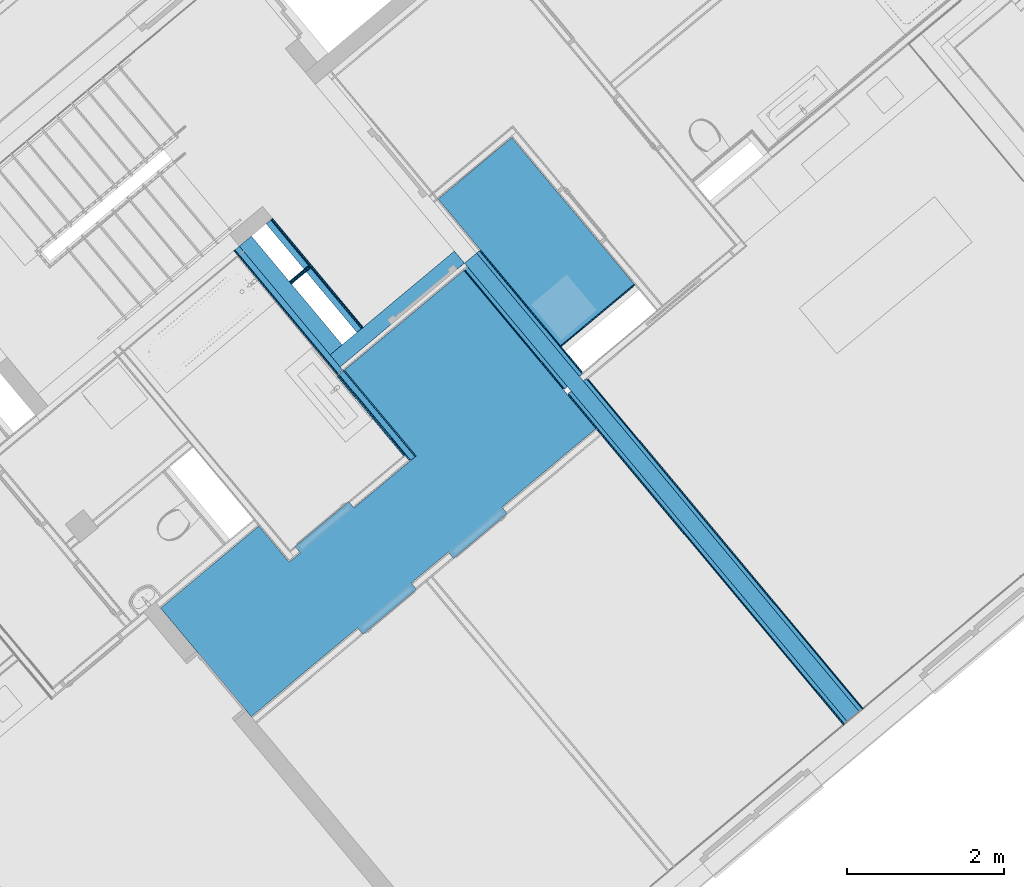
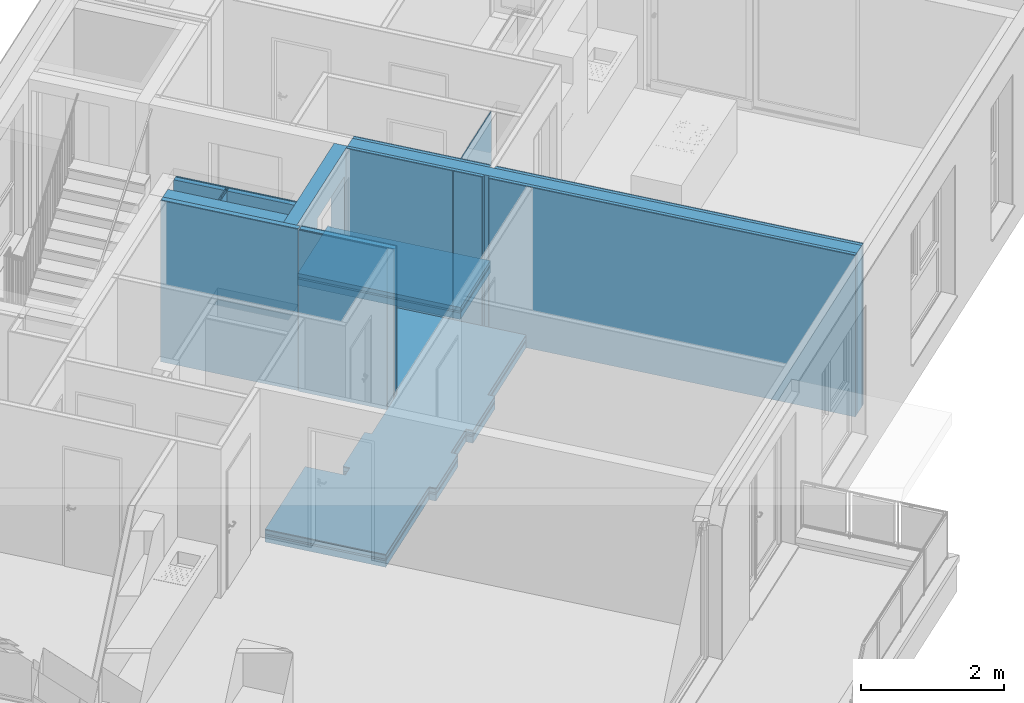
# One storey, part 26 of 50: 28 building element parts, 1 opening, 9 elements without a shape of their own.
"""IFC4 building model written with IfcOpenShell, lengths in metres."""

import ifcopenshell
import ifcopenshell.guid

model = None  # the IFC model being written
_history = None  # IfcOwnerHistory: only IFC2X3 demands one
_inside = {}  # id of a spatial element -> (the spatial element, [elements in it])
_under = {}  # id of a project, library or spatial element -> (it, [spatial elements below it])
_declared = {}  # id of a project -> (the project, [libraries it declares])
_typed = {}  # id of a type object -> (the type object, [elements of that type])
_made_of = {}  # id of a material, layer set ... -> (it, [elements and type objects made of it])


def new_model(schema):
    """Start an empty IFC model of exactly this schema.

    Asked for "IFC4X3", IfcOpenShell would pick the latest addendum, in which some entities
    have other attributes; the version numbers below select the first issue.
    IFC2X3 requires an IfcOwnerHistory on every rooted entity: one is made here for all.
    """
    global model, _history
    if schema == "IFC4X3":
        model = ifcopenshell.file(schema_version=(4, 3, 0, 0))
    else:
        model = ifcopenshell.file(schema=schema)
    _inside.clear()
    _under.clear()
    _declared.clear()
    _typed.clear()
    _made_of.clear()
    _history = None
    if model.schema == "IFC2X3":
        org = make("IfcOrganization", Name="unknown")
        user = make(
            "IfcPersonAndOrganization",
            ThePerson=make("IfcPerson", FamilyName="unknown"),
            TheOrganization=org,
        )
        app = make(
            "IfcApplication",
            ApplicationDeveloper=org,
            Version="unknown",
            ApplicationFullName="unknown",
            ApplicationIdentifier="unknown",
        )
        _history = make(
            "IfcOwnerHistory",
            OwningUser=user,
            OwningApplication=app,
            ChangeAction="ADDED",
            CreationDate=0,
        )
    return model


def make(cls, **values):
    """One entity of the class cls with the attributes given. An attribute that is None is left unset."""
    return model.create_entity(
        cls, **{name: value for name, value in values.items() if value is not None}
    )


def entity(cls, *values):
    """Any entity or typed value of the class cls, its attributes in the order of the schema. None: left unset."""
    e = model.create_entity(cls)
    for i, value in enumerate(values):
        if value is not None:
            e[i] = value
    return e


def rooted(cls, **values):
    """An entity with a GlobalId (a new one), such as an element, a storey or a relation."""
    return make(cls, GlobalId=ifcopenshell.guid.new(), OwnerHistory=_history, **values)


def si_unit(unit_type, name, prefix=None):
    """IfcSIUnit, for example si_unit("LENGTHUNIT", "METRE", prefix="MILLI")."""
    return make("IfcSIUnit", UnitType=unit_type, Prefix=prefix, Name=name)


def converted_unit(unit_type, name, factor, base, dimensions=None, offset=None):
    """IfcConversionBasedUnit, such as the inch: factor (a typed value) times the base unit."""
    return make(
        "IfcConversionBasedUnit"
        if offset is None
        else "IfcConversionBasedUnitWithOffset",
        ConversionOffset=offset,
        Dimensions=None
        if dimensions is None
        else entity("IfcDimensionalExponents", *dimensions),
        UnitType=unit_type,
        Name=name,
        ConversionFactor=make(
            "IfcMeasureWithUnit", ValueComponent=factor, UnitComponent=base
        ),
    )


def derived_unit(unit_type, elements):
    """IfcDerivedUnit: a product of units, each with its exponent."""
    return make(
        "IfcDerivedUnit",
        Elements=[
            make("IfcDerivedUnitElement", Unit=unit, Exponent=power)
            for unit, power in elements
        ],
        UnitType=unit_type,
    )


def assignment(units):
    """IfcUnitAssignment: the units of a project."""
    return None if units is None else make("IfcUnitAssignment", Units=units)


def point(xyz):
    """IfcCartesianPoint."""
    return None if xyz is None else make("IfcCartesianPoint", Coordinates=xyz)


def direction(xyz):
    """IfcDirection."""
    return None if xyz is None else make("IfcDirection", DirectionRatios=xyz)


def frame(location, z_axis=None, x_axis=None):
    """IfcAxis2Placement3D, a coordinate frame: its origin and axes. An axis left out is left unset."""
    return make(
        "IfcAxis2Placement3D",
        Location=point(location),
        Axis=direction(z_axis),
        RefDirection=direction(x_axis),
    )


def origin_with_axes():
    """The frame at (0, 0, 0) with the z axis (0, 0, 1) and the x axis (1, 0, 0) written out."""
    return frame((0.0, 0.0, 0.0), z_axis=(0.0, 0.0, 1.0), x_axis=(1.0, 0.0, 0.0))


def place(relative_to, where):
    """IfcLocalPlacement: puts the frame where relative to a parent placement (None: the world)."""
    return make(
        "IfcLocalPlacement", PlacementRelTo=relative_to, RelativePlacement=where
    )


def context(
    kind, dimensions, precision=None, world=None, true_north=None, identifier=None
):
    """IfcGeometricRepresentationContext, for example the 3D "Model" context."""
    return make(
        "IfcGeometricRepresentationContext",
        ContextIdentifier=identifier,
        ContextType=kind,
        CoordinateSpaceDimension=dimensions,
        Precision=precision,
        WorldCoordinateSystem=world,
        TrueNorth=true_north,
    )


def subcontext(parent, identifier, kind, view, scale=None):
    """IfcGeometricRepresentationSubContext, for example "Body" below "Model"."""
    return make(
        "IfcGeometricRepresentationSubContext",
        ContextIdentifier=identifier,
        ContextType=kind,
        ParentContext=parent,
        TargetScale=scale,
        TargetView=view,
    )


def project(units=None, contexts=None):
    """IfcProject with its units and contexts."""
    return rooted(
        "IfcProject",
        Name="project",
        RepresentationContexts=contexts,
        UnitsInContext=assignment(units),
    )


def spatial(cls, under=None, at=None, **own):
    """A site, building, storey or space (cls), placed at a placement, below another one or the project."""
    s = rooted(cls, ObjectPlacement=at, **own)
    if under is not None:
        _under.setdefault(under.id(), (under, []))[1].append(s)
    return s


def point_list(points):
    """IfcCartesianPointList2D or 3D."""
    cls = (
        "IfcCartesianPointList2D" if len(points[0]) == 2 else "IfcCartesianPointList3D"
    )
    return make(cls, CoordList=points)


def polygons(points, faces, closed=None, point_numbers=None):
    """IfcPolygonalFaceSet: a face is its outer loop, then its inner loops; points numbered from 1."""
    made = []
    for loops in faces:
        if len(loops) == 1:
            made.append(make("IfcIndexedPolygonalFace", CoordIndex=loops[0]))
        else:
            made.append(
                make(
                    "IfcIndexedPolygonalFaceWithVoids",
                    CoordIndex=loops[0],
                    InnerCoordIndices=loops[1:],
                )
            )
    return make(
        "IfcPolygonalFaceSet",
        Coordinates=point_list(points),
        Closed=closed,
        Faces=made,
        PnIndex=point_numbers,
    )


def shape(context_of_items, identifier, shape_type, items):
    """IfcShapeRepresentation: the items that make up one representation, for example the "Body"."""
    return make(
        "IfcShapeRepresentation",
        ContextOfItems=context_of_items,
        RepresentationIdentifier=identifier,
        RepresentationType=shape_type,
        Items=items,
    )


def material(Name=None, Category=None):
    """IfcMaterial."""
    return make("IfcMaterial", Name=Name, Category=Category)


def made_of(thing, what):
    """Note that an element or type object is made of a material, layer set ...; save() writes the relation."""
    if what is not None:
        _made_of.setdefault(what.id(), (what, []))[1].append(thing)
    return thing


def type_object(cls, material=None, **own):
    """A type object (cls), such as IfcWallType, which elements share."""
    return made_of(rooted(cls, **own), material)


def element(
    cls,
    number,
    at=None,
    inside=None,
    cuts=None,
    type_object=None,
    material=None,
    context=None,
    identifier="Body",
    shape_type=None,
    held_by="IfcProductDefinitionShape",
    body=None,
    shapes=None,
    **own,
):
    """One element of the class cls, such as IfcWall. Its Tag is "e" and its number.

    at: its placement. inside: the storey or other place that contains it. cuts: it is an
    opening in that element (IfcRelVoidsElement). A single representation is given by context,
    identifier, shape_type and body (its items); several are given by shapes. held_by: the class
    of the entity that holds the representations. save() writes the other relations.
    """
    e = rooted(cls, Tag="e%d" % number, ObjectPlacement=at, **own)
    if body is not None:
        shapes = [shape(context, identifier, shape_type, body)]
    if shapes is not None:
        e.Representation = make(held_by, Representations=shapes)
    if inside is not None:
        _inside.setdefault(inside.id(), (inside, []))[1].append(e)
    if cuts is not None:
        rooted(
            "IfcRelVoidsElement", RelatingBuildingElement=cuts, RelatedOpeningElement=e
        )
    if type_object is not None:
        _typed.setdefault(type_object.id(), (type_object, []))[1].append(e)
    return made_of(e, material)


def aggregate(whole, parts):
    """IfcRelAggregates: a whole, such as a stair, and the parts it consists of."""
    return rooted("IfcRelAggregates", RelatingObject=whole, RelatedObjects=parts)


def save(model, path):
    """Write the relations noted so far, then the file.

    IfcRelAggregates (storeys below a building ...), IfcRelContainedInSpatialStructure (elements
    in a storey), IfcRelDefinesByType, IfcRelAssociatesMaterial and IfcRelDeclares: one each for
    every whole, place, type object, material and project.
    """
    for whole, parts in _under.values():
        aggregate(whole, parts)
    for where, things in _inside.values():
        rooted(
            "IfcRelContainedInSpatialStructure",
            RelatedElements=things,
            RelatingStructure=where,
        )
    for kind, things in _typed.values():
        rooted("IfcRelDefinesByType", RelatedObjects=things, RelatingType=kind)
    for what, things in _made_of.values():
        rooted("IfcRelAssociatesMaterial", RelatedObjects=things, RelatingMaterial=what)
    for by, libraries in _declared.values():
        rooted("IfcRelDeclares", RelatingContext=by, RelatedDefinitions=libraries)
    model.write(path)


model = new_model("IFC4")

# Units and contexts
model_context = context("Model", 3, precision=1e-05, world=origin_with_axes(), true_north=direction((0.0, 1.0)))
body_context = subcontext(model_context, "Body", "Model", "MODEL_VIEW")
ifc_project = project(units=[si_unit("LENGTHUNIT", "METRE"), si_unit("AREAUNIT", "SQUARE_METRE"), si_unit("VOLUMEUNIT", "CUBIC_METRE"), converted_unit("PLANEANGLEUNIT", "DEGREE", entity("IfcPlaneAngleMeasure", 0.0174532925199), si_unit("PLANEANGLEUNIT", "RADIAN"), dimensions=[0, 0, 0, 0, 0, 0, 0]), converted_unit("TIMEUNIT", "Year", entity("IfcTimeMeasure", 31556926.0), si_unit("TIMEUNIT", "SECOND"), dimensions=[0, 0, 1, 0, 0, 0, 0]), si_unit("MASSUNIT", "GRAM", prefix="KILO"), si_unit("THERMODYNAMICTEMPERATUREUNIT", "DEGREE_CELSIUS"), si_unit("LUMINOUSINTENSITYUNIT", "LUMEN"), si_unit("ENERGYUNIT", "JOULE", prefix="MEGA"), derived_unit("THERMALCONDUCTANCEUNIT", [(si_unit("POWERUNIT", "WATT"), 1), (si_unit("LENGTHUNIT", "METRE"), -1), (si_unit("THERMODYNAMICTEMPERATUREUNIT", "KELVIN"), -1)]), derived_unit("SPECIFICHEATCAPACITYUNIT", [(si_unit("ENERGYUNIT", "JOULE"), 1), (si_unit("MASSUNIT", "GRAM", prefix="KILO"), -1), (si_unit("THERMODYNAMICTEMPERATUREUNIT", "KELVIN"), -1)]), derived_unit("MASSDENSITYUNIT", [(si_unit("MASSUNIT", "GRAM", prefix="KILO"), 1), (si_unit("VOLUMEUNIT", "CUBIC_METRE"), -1)])], contexts=[model_context])

# Site, building, storey
site_placement = place(None, frame((-0.00153261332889, -0.00661245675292, 0.0), z_axis=(0.0, 0.0, 1.0), x_axis=(1.0, 0.0, 0.0)))
site = spatial("IfcSite", under=ifc_project, at=site_placement, Name="Site", CompositionType="ELEMENT")
building_placement = place(site_placement, origin_with_axes())
building = spatial("IfcBuilding", under=site, at=building_placement, Name="Building", CompositionType="ELEMENT")
storey_placement = place(building_placement, frame((0.0, 0.0, 2.74), z_axis=(0.0, 0.0, 1.0), x_axis=(1.0, 0.0, 0.0)))
storey = spatial("IfcBuildingStorey", under=building, at=storey_placement, Name="OG1", CompositionType="ELEMENT", Elevation=2.74)

# Wall, building element parts
wall_type_1 = type_object("IfcWallType", Name="LB 13 cm doppelte Vorsatzschale Bad  120", PredefinedType="NOTDEFINED")
wall_1_placement = place(storey_placement, frame((1.61533473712, 20.7931276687, 0.0), z_axis=(0.0, 0.0, 1.0), x_axis=(0.641181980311, -0.767388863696, 0.0)))
wall_1 = element("IfcWall", 1, at=wall_1_placement, inside=storey, type_object=wall_type_1, Name="Wand-013", PredefinedType="NOTDEFINED")
ifc_material_1 = material(Name="Gipsputz")
building_element_part_1_placement = place(wall_1_placement, origin_with_axes())
building_element_part_1 = element("IfcBuildingElementPart", 2, at=building_element_part_1_placement, material=ifc_material_1, Name="Gipsputz", PredefinedType="NOTDEFINED", context=body_context, shape_type="Tessellation", body=[
    polygons([(1.42344865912, 0.12, 2.76), (0.0, 0.12, 2.76), (0.0, 0.105, 2.76), (1.42344919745, 0.105, 2.76), (1.42344865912, 0.12, 0.0), (0.0, 0.12, 0.0), (0.0, 0.105, 0.0), (1.42344919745, 0.105, 0.0)], [[[1, 2, 3, 4]], [[5, 6, 2, 1]], [[3, 2, 6, 7]], [[4, 3, 7, 8]], [[4, 8, 5, 1]], [[8, 7, 6, 5]]], closed=True),
])
ifc_material_2 = material(Name="Mineralwolle weich")
building_element_part_2_placement = place(wall_1_placement, origin_with_axes())
building_element_part_2 = element("IfcBuildingElementPart", 3, at=building_element_part_2_placement, material=ifc_material_2, Name="Mineralwolle weich", PredefinedType="NOTDEFINED", context=body_context, shape_type="Tessellation", body=[
    polygons([(1.42344919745, 0.105, 2.76), (0.0, 0.105, 2.76), (0.0, 0.03, 2.76), (1.42345188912, 0.03, 2.76), (1.42344919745, 0.105, 0.0), (0.0, 0.105, 0.0), (0.0, 0.03, 0.0), (1.42345188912, 0.03, 0.0)], [[[1, 2, 3, 4]], [[5, 6, 2, 1]], [[3, 2, 6, 7]], [[4, 3, 7, 8]], [[4, 8, 5, 1]], [[8, 7, 6, 5]]], closed=True),
])
ifc_material_3 = material(Name="Gipskarton")
building_element_part_3_placement = place(wall_1_placement, origin_with_axes())
building_element_part_3 = element("IfcBuildingElementPart", 4, at=building_element_part_3_placement, material=ifc_material_3, Name="Gipskarton", PredefinedType="NOTDEFINED", context=body_context, shape_type="Tessellation", body=[
    polygons([(1.40845188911, 0.03, 2.76), (0.0, 0.03, 2.76), (0.0, 0.015, 2.76), (1.40845242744, 0.015, 2.76), (1.40845188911, 0.03, 0.0), (0.0, 0.03, 0.0), (0.0, 0.015, 0.0), (1.40845242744, 0.015, 0.0)], [[[1, 2, 3, 4]], [[5, 6, 2, 1]], [[3, 2, 6, 7]], [[4, 3, 7, 8]], [[4, 8, 5, 1]], [[8, 7, 6, 5]]], closed=True),
])
building_element_part_4_placement = place(wall_1_placement, origin_with_axes())
building_element_part_4 = element("IfcBuildingElementPart", 5, at=building_element_part_4_placement, material=ifc_material_3, Name="Gipskarton", PredefinedType="NOTDEFINED", context=body_context, shape_type="Tessellation", body=[
    polygons([(1.31845242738, 0.015, 2.76), (0.0, 0.015, 2.76), (0.0, 0.0, 2.76), (1.31845296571, 0.0, 2.76), (1.31845242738, 0.015, 0.0), (0.0, 0.015, 0.0), (0.0, 0.0, 0.0), (1.31845296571, 0.0, 0.0)], [[[1, 2, 3, 4]], [[5, 6, 2, 1]], [[3, 2, 6, 7]], [[4, 3, 7, 8]], [[4, 8, 5, 1]], [[8, 7, 6, 5]]], closed=True),
])
aggregate(wall_1, [building_element_part_1, building_element_part_2, building_element_part_3, building_element_part_4])

# Wall, building element part
wall_type_2 = type_object("IfcWallType", Name="LB 9,0 cm einfache Vorsatzschale  90", PredefinedType="NOTDEFINED")
wall_2_placement = place(storey_placement, frame((4.46491081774, 21.0692371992, 0.0), z_axis=(0.0, 0.0, 1.0), x_axis=(0.767365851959, 0.641209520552, 0.0)))
wall_2 = element("IfcWall", 6, at=wall_2_placement, inside=storey, type_object=wall_type_2, Name="Wand-006", PredefinedType="NOTDEFINED")
building_element_part_5_placement = place(wall_2_placement, origin_with_axes())
building_element_part_5 = element("IfcBuildingElementPart", 7, at=building_element_part_5_placement, material=ifc_material_3, Name="Gipskarton", PredefinedType="NOTDEFINED", context=body_context, shape_type="Tessellation", body=[
    polygons([(1.28718371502, 0.075, 0.0), (0.0500355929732, 0.075, 0.0), (0.0500427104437, 0.09, 0.0), (1.28718371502, 0.09, 0.0), (1.28718371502, 0.075, 2.76), (0.0500355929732, 0.075, 2.76), (0.0500427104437, 0.09, 2.76), (1.28718371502, 0.09, 2.76)], [[[1, 2, 3, 4]], [[5, 6, 2, 1]], [[3, 2, 6, 7]], [[4, 3, 7, 8]], [[4, 8, 5, 1]], [[8, 7, 6, 5]]], closed=True),
])
aggregate(wall_2, [building_element_part_5])

# Wall, building element parts
wall_type_3 = type_object("IfcWallType", Name="LB Dreifach Vorsatzschale Schacht 45", PredefinedType="NOTDEFINED")
wall_3_placement = place(storey_placement, frame((1.03476523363, 21.9638652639, 0.0), z_axis=(0.0, 0.0, 1.0), x_axis=(0.767670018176, 0.640845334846, 0.0)))
wall_3 = element("IfcWall", 8, at=wall_3_placement, inside=storey, type_object=wall_type_3, Name="Wand-002", PredefinedType="NOTDEFINED")
building_element_part_6_placement = place(wall_3_placement, origin_with_axes())
building_element_part_6 = element("IfcBuildingElementPart", 9, at=building_element_part_6_placement, material=ifc_material_3, Name="Gipskarton", PredefinedType="NOTDEFINED", context=body_context, shape_type="Tessellation", body=[
    polygons([(0.320121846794, 0.03, 0.0), (0.0, 0.03, 0.0), (0.0, 0.045, 0.0), (0.320121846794, 0.045, 0.0), (0.320121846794, 0.03, 2.76), (0.0, 0.03, 2.76), (0.0, 0.045, 2.76), (0.320121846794, 0.045, 2.76)], [[[1, 2, 3, 4]], [[5, 6, 2, 1]], [[3, 2, 6, 7]], [[4, 3, 7, 8]], [[4, 8, 5, 1]], [[8, 7, 6, 5]]], closed=True),
])
building_element_part_7_placement = place(wall_3_placement, origin_with_axes())
building_element_part_7 = element("IfcBuildingElementPart", 10, at=building_element_part_7_placement, material=ifc_material_3, Name="Gipskarton", PredefinedType="NOTDEFINED", context=body_context, shape_type="Tessellation", body=[
    polygons([(0.320121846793, 0.015, 0.0), (0.0, 0.015, 0.0), (0.0, 0.03, 0.0), (0.320121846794, 0.03, 0.0), (0.320121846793, 0.015, 2.76), (0.0, 0.015, 2.76), (0.0, 0.03, 2.76), (0.320121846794, 0.03, 2.76)], [[[1, 2, 3, 4]], [[5, 6, 2, 1]], [[3, 2, 6, 7]], [[4, 3, 7, 8]], [[4, 8, 5, 1]], [[8, 7, 6, 5]]], closed=True),
])
building_element_part_8_placement = place(wall_3_placement, origin_with_axes())
building_element_part_8 = element("IfcBuildingElementPart", 11, at=building_element_part_8_placement, material=ifc_material_3, Name="Gipskarton", PredefinedType="NOTDEFINED", context=body_context, shape_type="Tessellation", body=[
    polygons([(0.320121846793, 0.0, 0.0), (0.0, 0.0, 0.0), (0.0, 0.015, 0.0), (0.320121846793, 0.015, 0.0), (0.320121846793, 0.0, 2.76), (0.0, 0.0, 2.76), (0.0, 0.015, 2.76), (0.320121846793, 0.015, 2.76)], [[[1, 2, 3, 4]], [[5, 6, 2, 1]], [[3, 2, 6, 7]], [[4, 3, 7, 8]], [[4, 8, 5, 1]], [[8, 7, 6, 5]]], closed=True),
])
aggregate(wall_3, [building_element_part_6, building_element_part_7, building_element_part_8])

# Wall, opening, building element part
wall_type_4 = type_object("IfcWallType", Name="LB 6,5 cm einfach Vorsatzschale + STB 265", PredefinedType="NOTDEFINED")
wall_4_placement = place(storey_placement, frame((3.10708203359, 22.3836955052, 0.0), z_axis=(0.0, 0.0, 1.0), x_axis=(-0.767670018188, -0.640845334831, 0.0)))
wall_4 = element("IfcWall", 12, at=wall_4_placement, inside=storey, type_object=wall_type_4, Name="Wand-003", PredefinedType="NOTDEFINED")
opening_placement = place(wall_4_placement, frame((0.668737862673, 0.0, 0.22), z_axis=(0.0, 0.0, 1.0), x_axis=(1.0, 0.0, 0.0)))
element("IfcOpeningElement", 13, at=opening_placement, cuts=wall_4, Name="Tür-001", context=body_context, identifier="Reference", shape_type="Tessellation", body=[
    polygons([(0.55, 0.125, 2.1), (-0.55, 0.125, 2.1), (-0.55, -0.91630174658, 2.1), (0.55, -0.91630174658, 2.1), (0.55, 1.18130174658, 2.1), (-0.55, 1.18130174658, 2.1), (-0.55, 0.125, -0.22), (-0.55, -0.91630174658, -0.22), (0.55, -0.91630174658, -0.22), (0.55, 0.125, -0.22), (0.55, 1.18130174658, -0.22), (-0.55, 1.18130174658, -0.22)], [[[1, 2, 3, 4]], [[2, 1, 5, 6]], [[2, 7, 8, 3]], [[3, 8, 9, 4]], [[10, 1, 4, 9]], [[1, 10, 11, 5]], [[5, 11, 12, 6]], [[7, 2, 6, 12]], [[7, 10, 9, 8]], [[10, 7, 12, 11]]], closed=True),
])
ifc_material_4 = material(Name="Stahlbeton Wand")
building_element_part_9_placement = place(wall_4_placement, origin_with_axes())
building_element_part_9 = element("IfcBuildingElementPart", 14, at=building_element_part_9_placement, material=ifc_material_4, Name="Stahlbeton Wand", PredefinedType="NOTDEFINED", context=body_context, shape_type="Tessellation", body=[
    polygons([(1.21873786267, 0.199999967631, 0.22), (1.21873786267, 0.199999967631, 2.32), (0.118737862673, 0.199999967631, 2.32), (0.118737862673, 0.199999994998, 0.22), (0.118737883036, 0.199999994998, 0.0), (0.0, 0.2, 0.0), (0.0, 0.2, 2.76), (2.06052917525, 0.2, 2.76), (2.06052917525, 0.2, 0.0), (1.21873786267, 0.199999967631, 0.0), (1.21873786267, 0.125, 0.22), (1.21873786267, 0.125, 2.32), (0.118737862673, 0.125, 2.32), (0.118737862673, 0.125, 0.22), (0.118737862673, 0.0, 0.22), (0.11873788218, 0.0, 0.0), (0.0, 0.0, 0.0), (0.0, 0.0, 2.76), (2.06052917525, 0.0, 2.76), (2.06052917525, 0.0, 0.0), (1.21873786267, 0.0, 0.0), (1.21873786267, 0.0, 0.22), (1.21873786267, 0.0, 2.32), (0.118737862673, 0.0, 2.32)], [[[1, 2, 3, 4, 5, 6, 7, 8, 9, 10]], [[2, 1, 11, 12]], [[3, 2, 12, 13]], [[4, 3, 13, 14]], [[4, 14, 15, 16, 5]], [[17, 6, 5, 16]], [[17, 18, 7, 6]], [[7, 18, 19, 8]], [[8, 19, 20, 9]], [[9, 20, 21, 10]], [[11, 1, 10, 21, 22]], [[12, 11, 22, 23]], [[13, 12, 23, 24]], [[14, 13, 24, 15]], [[16, 15, 24, 23, 22, 21, 20, 19, 18, 17]]], closed=True),
])
aggregate(wall_4, [building_element_part_9])

# Wall, building element parts
wall_type_5 = type_object("IfcWallType", Name="LB 9,0 cm einfache Vorsatzschale + STB 290", PredefinedType="NOTDEFINED")
wall_5_placement = place(storey_placement, frame((1.67880956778, 21.1913840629, 0.0), z_axis=(0.0, 0.0, 1.0), x_axis=(-0.640845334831, 0.767670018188, 0.0)))
wall_5 = element("IfcWall", 15, at=wall_5_placement, inside=storey, type_object=wall_type_5, Name="Wand-003", PredefinedType="NOTDEFINED")
building_element_part_10_placement = place(wall_5_placement, origin_with_axes())
building_element_part_10 = element("IfcBuildingElementPart", 16, at=building_element_part_10_placement, material=ifc_material_3, Name="Gipskarton", PredefinedType="NOTDEFINED", context=body_context, shape_type="Tessellation", body=[
    polygons([(1.80110932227, 0.275, 0.0), (-0.25, 0.275, 0.0), (-0.25, 0.29, 0.0), (1.8011022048, 0.29, 0.0), (1.80110932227, 0.275, 2.76), (-0.25, 0.275, 2.76), (-0.25, 0.29, 2.76), (1.8011022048, 0.29, 2.76)], [[[1, 2, 3, 4]], [[5, 6, 2, 1]], [[3, 2, 6, 7]], [[4, 3, 7, 8]], [[4, 8, 5, 1]], [[8, 7, 6, 5]]], closed=True),
])
building_element_part_11_placement = place(wall_5_placement, origin_with_axes())
building_element_part_11 = element("IfcBuildingElementPart", 17, at=building_element_part_11_placement, material=ifc_material_2, Name="Mineralwolle weich", PredefinedType="NOTDEFINED", context=body_context, shape_type="Tessellation", body=[
    polygons([(1.80114490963, 0.2, 0.0), (-0.25, 0.2, 0.0), (-0.25, 0.275, 0.0), (1.80110932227, 0.275, 0.0), (1.80114490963, 0.2, 2.76), (-0.25, 0.2, 2.76), (-0.25, 0.275, 2.76), (1.80110932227, 0.275, 2.76)], [[[1, 2, 3, 4]], [[5, 6, 2, 1]], [[3, 2, 6, 7]], [[4, 3, 7, 8]], [[4, 8, 5, 1]], [[8, 7, 6, 5]]], closed=True),
])
building_element_part_12_placement = place(wall_5_placement, origin_with_axes())
building_element_part_12 = element("IfcBuildingElementPart", 18, at=building_element_part_12_placement, material=ifc_material_4, Name="Stahlbeton Wand", PredefinedType="NOTDEFINED", context=body_context, shape_type="Tessellation", body=[
    polygons([(1.80123980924, 0.0, 0.0), (0.0, 0.0, 0.0), (0.0, 0.2, 0.0), (1.80114490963, 0.2, 0.0), (1.80123980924, 0.0, 2.76), (0.0, 0.0, 2.76), (0.0, 0.2, 2.76), (1.80114490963, 0.2, 2.76)], [[[1, 2, 3, 4]], [[5, 6, 2, 1]], [[3, 2, 6, 7]], [[4, 3, 7, 8]], [[4, 8, 5, 1]], [[8, 7, 6, 5]]], closed=True),
])
aggregate(wall_5, [building_element_part_10, building_element_part_11, building_element_part_12])

wall_type_6 = type_object("IfcWallType", Name="LB 10,5 cm doppelte Vorsatzschale Bad 105", PredefinedType="NOTDEFINED")
wall_6_placement = place(storey_placement, frame((0.71304114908, 22.7317569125, 0.0), z_axis=(0.0, 0.0, 1.0), x_axis=(0.640845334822, -0.767670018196, 0.0)))
wall_6 = element("IfcWall", 19, at=wall_6_placement, inside=storey, type_object=wall_type_6, Name="Wand-004", PredefinedType="NOTDEFINED")
building_element_part_13_placement = place(wall_6_placement, origin_with_axes())
building_element_part_13 = element("IfcBuildingElementPart", 20, at=building_element_part_13_placement, material=ifc_material_3, Name="Gipskarton", PredefinedType="NOTDEFINED", context=body_context, shape_type="Tessellation", body=[
    polygons([(1.80140623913, 0.09, 0.0), (0.0, 0.09, 0.0), (0.0, 0.105, 0.0), (1.80140623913, 0.105, 0.0), (1.80140623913, 0.09, 2.76), (0.0, 0.09, 2.76), (0.0, 0.105, 2.76), (1.80140623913, 0.105, 2.76)], [[[1, 2, 3, 4]], [[5, 6, 2, 1]], [[3, 2, 6, 7]], [[4, 3, 7, 8]], [[4, 8, 5, 1]], [[8, 7, 6, 5]]], closed=True),
])
building_element_part_14_placement = place(wall_6_placement, origin_with_axes())
building_element_part_14 = element("IfcBuildingElementPart", 21, at=building_element_part_14_placement, material=ifc_material_3, Name="Gipskarton", PredefinedType="NOTDEFINED", context=body_context, shape_type="Tessellation", body=[
    polygons([(1.80140623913, 0.075, 0.0), (0.0, 0.075, 0.0), (0.0, 0.09, 0.0), (1.80140623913, 0.09, 0.0), (1.80140623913, 0.075, 2.76), (0.0, 0.075, 2.76), (0.0, 0.09, 2.76), (1.80140623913, 0.09, 2.76)], [[[1, 2, 3, 4]], [[5, 6, 2, 1]], [[3, 2, 6, 7]], [[4, 3, 7, 8]], [[4, 8, 5, 1]], [[8, 7, 6, 5]]], closed=True),
])
building_element_part_15_placement = place(wall_6_placement, origin_with_axes())
building_element_part_15 = element("IfcBuildingElementPart", 22, at=building_element_part_15_placement, material=ifc_material_2, Name="Mineralwolle weich", PredefinedType="NOTDEFINED", context=body_context, shape_type="Tessellation", body=[
    polygons([(0.750662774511, 0.075, 0.0), (0.750662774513, 0.0, 0.0), (0.0, 0.0, 0.0), (0.0, 0.075, 0.0), (0.750662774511, 0.075, 2.76), (0.750662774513, 0.0, 2.76), (0.0, 0.0, 2.76), (0.0, 0.075, 2.76)], [[[1, 2, 3, 4]], [[2, 1, 5, 6]], [[2, 6, 7, 3]], [[8, 4, 3, 7]], [[5, 1, 4, 8]], [[6, 5, 8, 7]]], closed=True),
    polygons([(1.80140623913, 0.075, 0.0), (1.80140623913, 0.0, 0.0), (0.795662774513, 0.0, 0.0), (0.795662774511, 0.075, 0.0), (1.80140623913, 0.075, 2.76), (1.80140623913, 0.0, 2.76), (0.795662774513, 0.0, 2.76), (0.795662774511, 0.075, 2.76)], [[[1, 2, 3, 4]], [[2, 1, 5, 6]], [[2, 6, 7, 3]], [[8, 4, 3, 7]], [[5, 1, 4, 8]], [[6, 5, 8, 7]]], closed=True),
])
aggregate(wall_6, [building_element_part_13, building_element_part_14, building_element_part_15])

wall_type_7 = type_object("IfcWallType", Name="LB 6,5 cm einfach Vorsatzschale + STB + Schale 330", PredefinedType="NOTDEFINED")
wall_7_placement = place(storey_placement, frame((8.31086475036, 16.5635891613, 0.0), z_axis=(0.0, 0.0, 1.0), x_axis=(-0.640845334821, 0.767670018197, 0.0)))
wall_7 = element("IfcWall", 23, at=wall_7_placement, inside=storey, type_object=wall_type_7, Name="Wand-003", PredefinedType="NOTDEFINED")
building_element_part_16_placement = place(wall_7_placement, origin_with_axes())
building_element_part_16 = element("IfcBuildingElementPart", 24, at=building_element_part_16_placement, material=ifc_material_3, Name="Gipskarton", PredefinedType="NOTDEFINED", context=body_context, shape_type="Tessellation", body=[
    polygons([(7.60274102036, 0.33, 0.0), (7.60274102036, 0.315, 0.0), (6.01339393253, 0.315, 0.0), (6.01338681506, 0.33, 0.0), (7.60274102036, 0.33, 2.76), (7.60274102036, 0.315, 2.76), (6.01339393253, 0.315, 2.76), (6.01338681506, 0.33, 2.76)], [[[1, 2, 3, 4]], [[1, 5, 6, 2]], [[2, 6, 7, 3]], [[4, 3, 7, 8]], [[5, 1, 4, 8]], [[6, 5, 8, 7]]], closed=True),
    polygons([(5.99839393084, 0.315, 0.0), (5.5737861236, 0.315, 0.0), (5.5737884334, 0.33, 0.0), (5.99838681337, 0.33, 0.0), (5.99839393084, 0.315, 2.76), (5.5737861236, 0.315, 2.76), (5.5737884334, 0.33, 2.76), (5.99838681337, 0.33, 2.76)], [[[1, 2, 3, 4]], [[5, 6, 2, 1]], [[3, 2, 6, 7]], [[4, 3, 7, 8]], [[4, 8, 5, 1]], [[8, 7, 6, 5]]], closed=True),
    polygons([(5.46878612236, 0.315, 0.0), (0.0, 0.315, 0.0), (0.0, 0.33, 0.0), (5.46878843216, 0.33, 0.0), (5.46878612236, 0.315, 2.76), (0.0, 0.315, 2.76), (0.0, 0.33, 2.76), (5.46878843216, 0.33, 2.76)], [[[1, 2, 3, 4]], [[5, 6, 2, 1]], [[3, 2, 6, 7]], [[4, 3, 7, 8]], [[4, 8, 5, 1]], [[8, 7, 6, 5]]], closed=True),
])
building_element_part_17_placement = place(wall_7_placement, origin_with_axes())
building_element_part_17 = element("IfcBuildingElementPart", 25, at=building_element_part_17_placement, material=ifc_material_2, Name="Mineralwolle weich", PredefinedType="NOTDEFINED", context=body_context, shape_type="Tessellation", body=[
    polygons([(7.60274102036, 0.315, 0.0), (7.60274102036, 0.265, 0.0), (5.55877842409, 0.265, 0.0), (5.55878612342, 0.315, 0.0), (7.60274102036, 0.315, 2.76), (7.60274102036, 0.265, 2.76), (5.55877842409, 0.265, 2.76), (5.55878612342, 0.315, 2.76)], [[[1, 2, 3, 4]], [[1, 5, 6, 2]], [[2, 6, 7, 3]], [[4, 3, 7, 8]], [[5, 1, 4, 8]], [[6, 5, 8, 7]]], closed=True),
    polygons([(5.4837784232, 0.265, 0.0), (0.0, 0.265, 0.0), (0.0, 0.315, 0.0), (5.48378612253, 0.315, 0.0), (5.4837784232, 0.265, 2.76), (0.0, 0.265, 2.76), (0.0, 0.315, 2.76), (5.48378612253, 0.315, 2.76)], [[[1, 2, 3, 4]], [[5, 6, 2, 1]], [[3, 2, 6, 7]], [[4, 3, 7, 8]], [[4, 8, 5, 1]], [[8, 7, 6, 5]]], closed=True),
])
building_element_part_18_placement = place(wall_7_placement, origin_with_axes())
building_element_part_18 = element("IfcBuildingElementPart", 26, at=building_element_part_18_placement, material=ifc_material_4, Name="Stahlbeton Wand", PredefinedType="NOTDEFINED", context=body_context, shape_type="Tessellation", body=[
    polygons([(7.60274102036, 0.265, 0.0), (7.60274102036, 0.065, 0.0), (0.0, 0.065, 0.0), (0.0, 0.265, 0.0), (7.60274102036, 0.265, 2.76), (7.60274102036, 0.065, 2.76), (0.0, 0.065, 2.76), (0.0, 0.265, 2.76)], [[[1, 2, 3, 4]], [[1, 5, 6, 2]], [[2, 6, 7, 3]], [[4, 3, 7, 8]], [[5, 1, 4, 8]], [[6, 5, 8, 7]]], closed=True),
])
building_element_part_19_placement = place(wall_7_placement, origin_with_axes())
building_element_part_19 = element("IfcBuildingElementPart", 27, at=building_element_part_19_placement, material=ifc_material_2, Name="Mineralwolle weich", PredefinedType="NOTDEFINED", context=body_context, shape_type="Tessellation", body=[
    polygons([(7.60274102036, 0.065, 0.0), (7.60274102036, 0.015, 0.0), (5.55873992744, 0.015, 0.0), (5.55874762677, 0.065, 0.0), (7.60274102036, 0.065, 2.76), (7.60274102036, 0.015, 2.76), (5.55873992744, 0.015, 2.76), (5.55874762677, 0.065, 2.76)], [[[1, 2, 3, 4]], [[1, 5, 6, 2]], [[2, 6, 7, 3]], [[4, 3, 7, 8]], [[5, 1, 4, 8]], [[6, 5, 8, 7]]], closed=True),
    polygons([(5.48373992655, 0.015, 0.0), (0.0, 0.015, 0.0), (0.0, 0.065, 0.0), (5.48374762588, 0.065, 0.0), (5.48373992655, 0.015, 2.76), (0.0, 0.015, 2.76), (0.0, 0.065, 2.76), (5.48374762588, 0.065, 2.76)], [[[1, 2, 3, 4]], [[5, 6, 2, 1]], [[3, 2, 6, 7]], [[4, 3, 7, 8]], [[4, 8, 5, 1]], [[8, 7, 6, 5]]], closed=True),
])
building_element_part_20_placement = place(wall_7_placement, origin_with_axes())
building_element_part_20 = element("IfcBuildingElementPart", 28, at=building_element_part_20_placement, material=ifc_material_3, Name="Gipskarton", PredefinedType="NOTDEFINED", context=body_context, shape_type="Tessellation", body=[
    polygons([(7.60274102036, 0.015, 0.0), (7.60274102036, 0.0, 0.0), (6.01354339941, 0.0, 0.0), (6.01353628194, 0.015, 0.0), (7.60274102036, 0.015, 2.76), (7.60274102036, 0.0, 2.76), (6.01354339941, 0.0, 2.76), (6.01353628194, 0.015, 2.76)], [[[1, 2, 3, 4]], [[1, 5, 6, 2]], [[2, 6, 7, 3]], [[4, 3, 7, 8]], [[5, 1, 4, 8]], [[6, 5, 8, 7]]], closed=True),
    polygons([(5.99854339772, 0.0, 0.0), (5.57373761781, 0.0, 0.0), (5.57373992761, 0.015, 0.0), (5.99853628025, 0.015, 0.0), (5.99854339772, 0.0, 2.76), (5.57373761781, 0.0, 2.76), (5.57373992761, 0.015, 2.76), (5.99853628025, 0.015, 2.76)], [[[1, 2, 3, 4]], [[5, 6, 2, 1]], [[3, 2, 6, 7]], [[4, 3, 7, 8]], [[4, 8, 5, 1]], [[8, 7, 6, 5]]], closed=True),
    polygons([(5.46873761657, 0.0, 0.0), (0.0, 0.0, 0.0), (0.0, 0.015, 0.0), (5.46873992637, 0.015, 0.0), (5.46873761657, 0.0, 2.76), (0.0, 0.0, 2.76), (0.0, 0.015, 2.76), (5.46873992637, 0.015, 2.76)], [[[1, 2, 3, 4]], [[5, 6, 2, 1]], [[3, 2, 6, 7]], [[4, 3, 7, 8]], [[4, 8, 5, 1]], [[8, 7, 6, 5]]], closed=True),
])
aggregate(wall_7, [building_element_part_16, building_element_part_17, building_element_part_18, building_element_part_19, building_element_part_20])

# Covering, building element parts
covering_type = type_object("IfcCoveringType", Name="DE 01 Decke Wohnung/Wohnung Fließen 220", PredefinedType="NOTDEFINED")
covering_1_placement = place(storey_placement, frame((2.89957040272, 23.0457904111, 0.22), z_axis=(0.0, 0.0, 1.0), x_axis=(1.0, 0.0, 0.0)))
covering_1 = element("IfcCovering", 29, at=covering_1_placement, inside=storey, type_object=covering_type, Name="Decke-001", PredefinedType="NOTDEFINED")
ifc_material_5 = material(Name="Fliesen")
building_element_part_21_placement = place(covering_1_placement, origin_with_axes())
building_element_part_21 = element("IfcBuildingElementPart", 30, at=building_element_part_21_placement, material=ifc_material_5, Name="Fliesen", PredefinedType="NOTDEFINED", context=body_context, shape_type="Tessellation", body=[
    polygons([(1.55754311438, -1.86578427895, -0.015), (1.55754311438, -1.86578427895, 0.0), (0.0, 0.0, 0.0), (0.0, 0.0, -0.015), (2.49537238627, -1.0821358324, -0.015), (2.49537238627, -1.0821358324, 0.0), (0.936944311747, 0.782908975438, 0.0), (0.936944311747, 0.782908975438, -0.015)], [[[1, 2, 3, 4]], [[5, 6, 2, 1]], [[3, 2, 6, 7]], [[4, 3, 7, 8]], [[4, 8, 5, 1]], [[8, 7, 6, 5]]], closed=True),
])
ifc_material_6 = material(Name="Estrich")
building_element_part_22_placement = place(covering_1_placement, origin_with_axes())
building_element_part_22 = element("IfcBuildingElementPart", 31, at=building_element_part_22_placement, material=ifc_material_6, Name="Estrich", PredefinedType="NOTDEFINED", context=body_context, shape_type="Tessellation", body=[
    polygons([(1.55754311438, -1.86578427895, -0.08), (1.55754311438, -1.86578427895, -0.015), (0.0, 0.0, -0.015), (0.0, 0.0, -0.08), (2.49537238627, -1.0821358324, -0.08), (2.49537238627, -1.0821358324, -0.015), (0.936944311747, 0.782908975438, -0.015), (0.936944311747, 0.782908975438, -0.08)], [[[1, 2, 3, 4]], [[5, 6, 2, 1]], [[3, 2, 6, 7]], [[4, 3, 7, 8]], [[4, 8, 5, 1]], [[8, 7, 6, 5]]], closed=True),
])
ifc_material_7 = material(Name="Trittschalldämmung")
building_element_part_23_placement = place(covering_1_placement, origin_with_axes())
building_element_part_23 = element("IfcBuildingElementPart", 32, at=building_element_part_23_placement, material=ifc_material_7, Name="Trittschalldämmung", PredefinedType="NOTDEFINED", context=body_context, shape_type="Tessellation", body=[
    polygons([(1.55754311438, -1.86578427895, -0.11), (1.55754311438, -1.86578427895, -0.08), (0.0, 0.0, -0.08), (0.0, 0.0, -0.11), (2.49537238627, -1.0821358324, -0.11), (2.49537238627, -1.0821358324, -0.08), (0.936944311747, 0.782908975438, -0.08), (0.936944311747, 0.782908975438, -0.11)], [[[1, 2, 3, 4]], [[5, 6, 2, 1]], [[3, 2, 6, 7]], [[4, 3, 7, 8]], [[4, 8, 5, 1]], [[8, 7, 6, 5]]], closed=True),
])
ifc_material_8 = material(Name="Schüttung")
building_element_part_24_placement = place(covering_1_placement, origin_with_axes())
building_element_part_24 = element("IfcBuildingElementPart", 33, at=building_element_part_24_placement, material=ifc_material_8, Name="Schüttung", PredefinedType="NOTDEFINED", context=body_context, shape_type="Tessellation", body=[
    polygons([(0.0, 0.0, -0.22), (1.55754311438, -1.86578427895, -0.22), (1.55754311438, -1.86578427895, -0.11), (0.0, 0.0, -0.11), (0.936944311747, 0.782908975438, -0.22), (2.49537238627, -1.0821358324, -0.22), (2.49537238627, -1.0821358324, -0.11), (0.936944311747, 0.782908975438, -0.11)], [[[1, 2, 3, 4]], [[1, 5, 6, 2]], [[2, 6, 7, 3]], [[4, 3, 7, 8]], [[5, 1, 4, 8]], [[6, 5, 8, 7]]], closed=True),
])
aggregate(covering_1, [building_element_part_21, building_element_part_22, building_element_part_23, building_element_part_24])

covering_2_placement = place(storey_placement, frame((0.620119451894, 18.8878317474, 0.22), z_axis=(0.0, 0.0, 1.0), x_axis=(1.0, 0.0, 0.0)))
covering_2 = element("IfcCovering", 34, at=covering_2_placement, inside=storey, type_object=covering_type, Name="Decke-002", PredefinedType="NOTDEFINED")
building_element_part_25_placement = place(covering_2_placement, origin_with_axes())
building_element_part_25 = element("IfcBuildingElementPart", 35, at=building_element_part_25_placement, material=ifc_material_5, Name="Fliesen", PredefinedType="NOTDEFINED", context=body_context, shape_type="Tessellation", body=[
    polygons([(0.0, 0.0, -0.015), (-1.25133214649, -1.04561091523, -0.015), (-1.25133214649, -1.04561091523, 0.0), (0.0, 0.0, 0.0), (0.384427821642, -0.460063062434, -0.015), (0.526476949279, -0.341367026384, -0.015), (0.459149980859, -0.260793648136, -0.015), (1.14210555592, 0.309882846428, -0.015), (1.20943260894, 0.229309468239, -0.015), (1.99999160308, 0.889899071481, -0.015), (1.08732954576, 1.98225712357, -0.015), (2.6068880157, 3.25077620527, -0.015), (4.28845343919, 1.23642541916, -0.015), (3.09282756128, 0.237362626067, -0.015), (3.16015461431, 0.156789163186, -0.015), (2.47719895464, -0.413887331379, -0.015), (2.40987198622, -0.333313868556, -0.015), (1.93794698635, -0.727653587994, -0.015), (2.00527395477, -0.808226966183, -0.015), (1.32231837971, -1.37890346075, -0.015), (1.25499141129, -1.29832999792, -0.015), (-0.0965096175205, -2.42764183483, -0.015), (-0.0965096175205, -2.42764183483, 0.0), (0.384427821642, -0.460063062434, 0.0), (1.25499141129, -1.29832999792, 0.0), (1.32231837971, -1.37890346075, 0.0), (2.00527395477, -0.808226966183, 0.0), (1.93794698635, -0.727653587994, 0.0), (2.40987198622, -0.333313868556, 0.0), (2.47719895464, -0.413887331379, 0.0), (3.16015461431, 0.156789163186, 0.0), (3.09282756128, 0.237362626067, 0.0), (4.28845343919, 1.23642541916, 0.0), (2.6068880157, 3.25077620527, 0.0), (1.08732954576, 1.98225712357, 0.0), (1.99999160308, 0.889899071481, 0.0), (1.20943260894, 0.229309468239, 0.0), (1.14210555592, 0.309882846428, 0.0), (0.459149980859, -0.260793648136, 0.0), (0.526476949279, -0.341367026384, 0.0)], [[[1, 2, 3, 4]], [[2, 1, 5, 6, 7, 8, 9, 10, 11, 12, 13, 14, 15, 16, 17, 18, 19, 20, 21, 22]], [[2, 22, 23, 3]], [[24, 4, 3, 23, 25, 26, 27, 28, 29, 30, 31, 32, 33, 34, 35, 36, 37, 38, 39, 40]], [[5, 1, 4, 24]], [[6, 5, 24, 40]], [[7, 6, 40, 39]], [[8, 7, 39, 38]], [[9, 8, 38, 37]], [[10, 9, 37, 36]], [[11, 10, 36, 35]], [[12, 11, 35, 34]], [[13, 12, 34, 33]], [[14, 13, 33, 32]], [[15, 14, 32, 31]], [[16, 15, 31, 30]], [[17, 16, 30, 29]], [[18, 17, 29, 28]], [[19, 18, 28, 27]], [[20, 19, 27, 26]], [[21, 20, 26, 25]], [[22, 21, 25, 23]]], closed=True),
])
building_element_part_26_placement = place(covering_2_placement, origin_with_axes())
building_element_part_26 = element("IfcBuildingElementPart", 36, at=building_element_part_26_placement, material=ifc_material_6, Name="Estrich", PredefinedType="NOTDEFINED", context=body_context, shape_type="Tessellation", body=[
    polygons([(0.0, 0.0, -0.08), (-1.25133214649, -1.04561091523, -0.08), (-1.25133214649, -1.04561091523, -0.015), (0.0, 0.0, -0.015), (0.384427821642, -0.460063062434, -0.08), (0.526476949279, -0.341367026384, -0.08), (0.459149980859, -0.260793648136, -0.08), (1.14210555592, 0.309882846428, -0.08), (1.20943260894, 0.229309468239, -0.08), (1.99999160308, 0.889899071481, -0.08), (1.08732954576, 1.98225712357, -0.08), (2.6068880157, 3.25077620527, -0.08), (4.28845343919, 1.23642541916, -0.08), (3.09282756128, 0.237362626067, -0.08), (3.16015461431, 0.156789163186, -0.08), (2.47719895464, -0.413887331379, -0.08), (2.40987198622, -0.333313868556, -0.08), (1.93794698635, -0.727653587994, -0.08), (2.00527395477, -0.808226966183, -0.08), (1.32231837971, -1.37890346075, -0.08), (1.25499141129, -1.29832999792, -0.08), (-0.0965096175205, -2.42764183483, -0.08), (-0.0965096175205, -2.42764183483, -0.015), (0.384427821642, -0.460063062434, -0.015), (1.25499141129, -1.29832999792, -0.015), (1.32231837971, -1.37890346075, -0.015), (2.00527395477, -0.808226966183, -0.015), (1.93794698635, -0.727653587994, -0.015), (2.40987198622, -0.333313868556, -0.015), (2.47719895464, -0.413887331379, -0.015), (3.16015461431, 0.156789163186, -0.015), (3.09282756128, 0.237362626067, -0.015), (4.28845343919, 1.23642541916, -0.015), (2.6068880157, 3.25077620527, -0.015), (1.08732954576, 1.98225712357, -0.015), (1.99999160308, 0.889899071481, -0.015), (1.20943260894, 0.229309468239, -0.015), (1.14210555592, 0.309882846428, -0.015), (0.459149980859, -0.260793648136, -0.015), (0.526476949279, -0.341367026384, -0.015)], [[[1, 2, 3, 4]], [[2, 1, 5, 6, 7, 8, 9, 10, 11, 12, 13, 14, 15, 16, 17, 18, 19, 20, 21, 22]], [[2, 22, 23, 3]], [[24, 4, 3, 23, 25, 26, 27, 28, 29, 30, 31, 32, 33, 34, 35, 36, 37, 38, 39, 40]], [[5, 1, 4, 24]], [[6, 5, 24, 40]], [[7, 6, 40, 39]], [[8, 7, 39, 38]], [[9, 8, 38, 37]], [[10, 9, 37, 36]], [[11, 10, 36, 35]], [[12, 11, 35, 34]], [[13, 12, 34, 33]], [[14, 13, 33, 32]], [[15, 14, 32, 31]], [[16, 15, 31, 30]], [[17, 16, 30, 29]], [[18, 17, 29, 28]], [[19, 18, 28, 27]], [[20, 19, 27, 26]], [[21, 20, 26, 25]], [[22, 21, 25, 23]]], closed=True),
])
building_element_part_27_placement = place(covering_2_placement, origin_with_axes())
building_element_part_27 = element("IfcBuildingElementPart", 37, at=building_element_part_27_placement, material=ifc_material_7, Name="Trittschalldämmung", PredefinedType="NOTDEFINED", context=body_context, shape_type="Tessellation", body=[
    polygons([(0.0, 0.0, -0.11), (-1.25133214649, -1.04561091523, -0.11), (-1.25133214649, -1.04561091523, -0.08), (0.0, 0.0, -0.08), (0.384427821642, -0.460063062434, -0.11), (0.526476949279, -0.341367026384, -0.11), (0.459149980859, -0.260793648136, -0.11), (1.14210555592, 0.309882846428, -0.11), (1.20943260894, 0.229309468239, -0.11), (1.99999160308, 0.889899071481, -0.11), (1.08732954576, 1.98225712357, -0.11), (2.6068880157, 3.25077620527, -0.11), (4.28845343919, 1.23642541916, -0.11), (3.09282756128, 0.237362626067, -0.11), (3.16015461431, 0.156789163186, -0.11), (2.47719895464, -0.413887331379, -0.11), (2.40987198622, -0.333313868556, -0.11), (1.93794698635, -0.727653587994, -0.11), (2.00527395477, -0.808226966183, -0.11), (1.32231837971, -1.37890346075, -0.11), (1.25499141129, -1.29832999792, -0.11), (-0.0965096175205, -2.42764183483, -0.11), (-0.0965096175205, -2.42764183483, -0.08), (0.384427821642, -0.460063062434, -0.08), (1.25499141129, -1.29832999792, -0.08), (1.32231837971, -1.37890346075, -0.08), (2.00527395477, -0.808226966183, -0.08), (1.93794698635, -0.727653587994, -0.08), (2.40987198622, -0.333313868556, -0.08), (2.47719895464, -0.413887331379, -0.08), (3.16015461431, 0.156789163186, -0.08), (3.09282756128, 0.237362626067, -0.08), (4.28845343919, 1.23642541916, -0.08), (2.6068880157, 3.25077620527, -0.08), (1.08732954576, 1.98225712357, -0.08), (1.99999160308, 0.889899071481, -0.08), (1.20943260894, 0.229309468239, -0.08), (1.14210555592, 0.309882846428, -0.08), (0.459149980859, -0.260793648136, -0.08), (0.526476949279, -0.341367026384, -0.08)], [[[1, 2, 3, 4]], [[2, 1, 5, 6, 7, 8, 9, 10, 11, 12, 13, 14, 15, 16, 17, 18, 19, 20, 21, 22]], [[2, 22, 23, 3]], [[24, 4, 3, 23, 25, 26, 27, 28, 29, 30, 31, 32, 33, 34, 35, 36, 37, 38, 39, 40]], [[5, 1, 4, 24]], [[6, 5, 24, 40]], [[7, 6, 40, 39]], [[8, 7, 39, 38]], [[9, 8, 38, 37]], [[10, 9, 37, 36]], [[11, 10, 36, 35]], [[12, 11, 35, 34]], [[13, 12, 34, 33]], [[14, 13, 33, 32]], [[15, 14, 32, 31]], [[16, 15, 31, 30]], [[17, 16, 30, 29]], [[18, 17, 29, 28]], [[19, 18, 28, 27]], [[20, 19, 27, 26]], [[21, 20, 26, 25]], [[22, 21, 25, 23]]], closed=True),
])
building_element_part_28_placement = place(covering_2_placement, origin_with_axes())
building_element_part_28 = element("IfcBuildingElementPart", 38, at=building_element_part_28_placement, material=ifc_material_8, Name="Schüttung", PredefinedType="NOTDEFINED", context=body_context, shape_type="Tessellation", body=[
    polygons([(-1.25133214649, -1.04561091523, -0.11), (0.0, 0.0, -0.11), (0.0, 0.0, -0.22), (-1.25133214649, -1.04561091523, -0.22), (0.526476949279, -0.341367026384, -0.11), (0.384427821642, -0.460063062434, -0.11), (-0.0965096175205, -2.42764183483, -0.11), (1.25499141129, -1.29832999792, -0.11), (1.32231837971, -1.37890346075, -0.11), (2.00527395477, -0.808226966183, -0.11), (1.93794698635, -0.727653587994, -0.11), (2.40987198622, -0.333313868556, -0.11), (2.47719895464, -0.413887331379, -0.11), (3.16015461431, 0.156789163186, -0.11), (3.09282756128, 0.237362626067, -0.11), (4.28845343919, 1.23642541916, -0.11), (2.6068880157, 3.25077620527, -0.11), (1.08732954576, 1.98225712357, -0.11), (1.99999160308, 0.889899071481, -0.11), (1.20943260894, 0.229309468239, -0.11), (1.14210555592, 0.309882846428, -0.11), (0.459149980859, -0.260793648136, -0.11), (0.384427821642, -0.460063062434, -0.22), (-0.0965096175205, -2.42764183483, -0.22), (0.526476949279, -0.341367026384, -0.22), (0.459149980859, -0.260793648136, -0.22), (1.14210555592, 0.309882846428, -0.22), (1.20943260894, 0.229309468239, -0.22), (1.99999160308, 0.889899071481, -0.22), (1.08732954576, 1.98225712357, -0.22), (2.6068880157, 3.25077620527, -0.22), (4.28845343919, 1.23642541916, -0.22), (3.09282756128, 0.237362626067, -0.22), (3.16015461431, 0.156789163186, -0.22), (2.47719895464, -0.413887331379, -0.22), (2.40987198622, -0.333313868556, -0.22), (1.93794698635, -0.727653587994, -0.22), (2.00527395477, -0.808226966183, -0.22), (1.32231837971, -1.37890346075, -0.22), (1.25499141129, -1.29832999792, -0.22)], [[[1, 2, 3, 4]], [[5, 6, 2, 1, 7, 8, 9, 10, 11, 12, 13, 14, 15, 16, 17, 18, 19, 20, 21, 22]], [[2, 6, 23, 3]], [[24, 4, 3, 23, 25, 26, 27, 28, 29, 30, 31, 32, 33, 34, 35, 36, 37, 38, 39, 40]], [[7, 1, 4, 24]], [[6, 5, 25, 23]], [[8, 7, 24, 40]], [[9, 8, 40, 39]], [[10, 9, 39, 38]], [[11, 10, 38, 37]], [[12, 11, 37, 36]], [[13, 12, 36, 35]], [[14, 13, 35, 34]], [[15, 14, 34, 33]], [[16, 15, 33, 32]], [[17, 16, 32, 31]], [[18, 17, 31, 30]], [[19, 18, 30, 29]], [[20, 19, 29, 28]], [[21, 20, 28, 27]], [[22, 21, 27, 26]], [[5, 22, 26, 25]]], closed=True),
])
aggregate(covering_2, [building_element_part_25, building_element_part_26, building_element_part_27, building_element_part_28])

save(model, "model.ifc")
